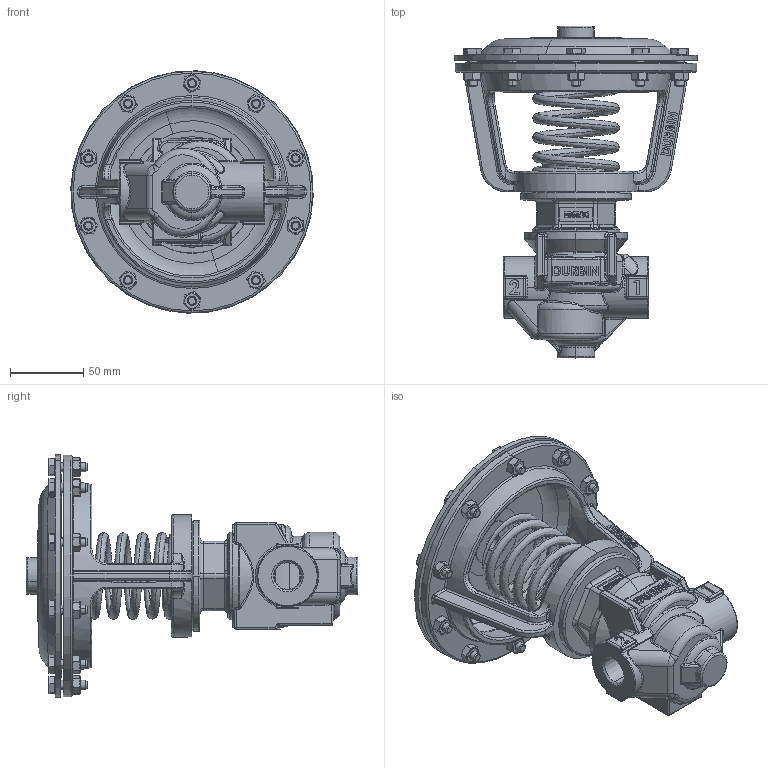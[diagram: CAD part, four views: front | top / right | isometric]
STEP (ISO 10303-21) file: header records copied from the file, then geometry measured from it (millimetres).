
FILE_DESCRIPTION (( 'STEP AP203' ), '1' );
FILE_NAME ('.50-.75 2W SM NPT SC500-STEP.STEP', '2018-11-07T14:50:13', ( '' ), ( '' ), 'SwSTEP 2.0', 'SolidWorks 2012', '' );
FILE_SCHEMA (( 'CONFIG_CONTROL_DESIGN' ));
Length unit declared in the file: inch
Products named in the file (10): .50-.75 2W SM NPT SC500-STEP; H060-03; H096-10; D293-160DR; C293-018DR; D771; C293-018DM; D283-139D-SS; C013-006D-SS; C093-136D-SS
Assembly tree (27 placements, depth 3):
  .50-.75 2W SM NPT SC500-STEP
    C093-136D-SS
    C013-006D-SS
    D283-139D-SS
    C293-018DR
      C293-018DM
      D771
    D293-160DR
    H096-10  x10
    H060-03  x10
Bounding box: 166.01 x 227.36 x 166.01 mm (x, y, z)
Volume: 565785.6 mm3; surface area: 226312.2 mm2
Topology: 26 solids, 26 shells, 3359 faces, 8040 edges, 4645 vertices
Faces by surface type: plane 900, bspline 832, cylinder 675, cone 367, sphere 321, torus 264
Entity records: 113597 total; most frequent: CARTESIAN_POINT 60024, ORIENTED_EDGE 11962, DIRECTION 9263, EDGE_CURVE 5981, VERTEX_POINT 3673, AXIS2_PLACEMENT_3D 3567, EDGE_LOOP 2576, FACE_OUTER_BOUND 2405
